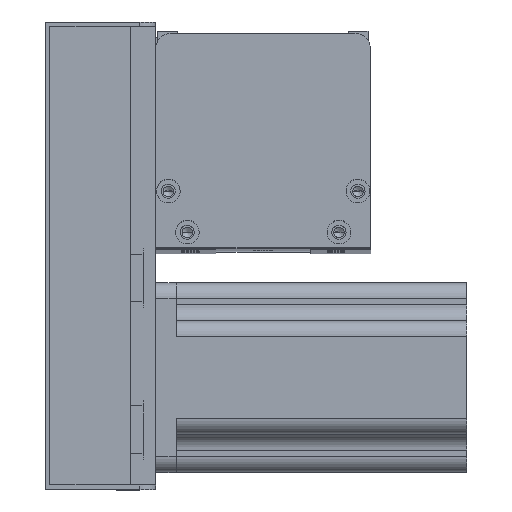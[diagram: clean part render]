
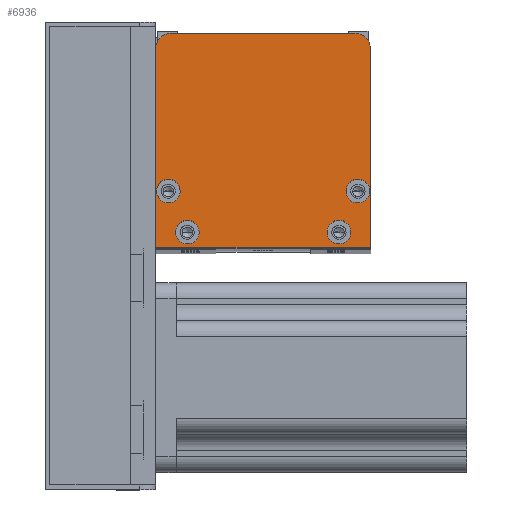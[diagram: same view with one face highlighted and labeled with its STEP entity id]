
A CAD part, top view. The second image highlights one B-rep face of the part: STEP entity #6936.
In plain terms, the highlighted planar face has unit normal (0, 0, 1) as drawn and (0, 0, -1) by its records, which use the part's own axes.
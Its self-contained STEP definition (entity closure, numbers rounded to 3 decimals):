
#126 = CARTESIAN_POINT ( 'NONE',  ( 68., 0., 0. ) ) ;
#302 = DIRECTION ( 'NONE',  ( 0., 0., 1. ) ) ;
#391 = CARTESIAN_POINT ( 'NONE',  ( 68., 0., 0. ) ) ;
#395 = VERTEX_POINT ( 'NONE', #4404 ) ;
#454 = DIRECTION ( 'NONE',  ( 0., 0., -1. ) ) ;
#718 = VERTEX_POINT ( 'NONE', #3376 ) ;
#1198 = ORIENTED_EDGE ( 'NONE', *, *, #7739, .F. ) ;
#2055 = VECTOR ( 'NONE', #8915, 1000. ) ;
#2412 = DIRECTION ( 'NONE',  ( 0., 0., -1. ) ) ;
#2691 = DIRECTION ( 'NONE',  ( -1., 0., 0. ) ) ;
#2917 = ORIENTED_EDGE ( 'NONE', *, *, #13843, .T. ) ;
#3149 = CARTESIAN_POINT ( 'NONE',  ( 0., 0., 0. ) ) ;
#3376 = CARTESIAN_POINT ( 'NONE',  ( 0., 63., 0. ) ) ;
#3703 = CARTESIAN_POINT ( 'NONE',  ( 68., 68., 0. ) ) ;
#4128 = FACE_BOUND ( 'NONE', #23561, .T. ) ;
#4137 = ORIENTED_EDGE ( 'NONE', *, *, #4379, .F. ) ;
#4379 = EDGE_CURVE ( 'NONE', #28611, #11927, #7349, .T. ) ;
#4404 = CARTESIAN_POINT ( 'NONE',  ( 5., 68., 0. ) ) ;
#4482 = CARTESIAN_POINT ( 'NONE',  ( 58., 5., 0. ) ) ;
#4788 = CIRCLE ( 'NONE', #6461, 5. ) ;
#4826 = LINE ( 'NONE', #24292, #2055 ) ;
#4935 = AXIS2_PLACEMENT_3D ( 'NONE', #11714, #16174, #4995 ) ;
#4986 = ORIENTED_EDGE ( 'NONE', *, *, #8062, .F. ) ;
#4995 = DIRECTION ( 'NONE',  ( 1., 0., 0. ) ) ;
#5042 = CARTESIAN_POINT ( 'NONE',  ( 7.75, 18., 0. ) ) ;
#5139 = DIRECTION ( 'NONE',  ( 1., 0., 0. ) ) ;
#5328 = DIRECTION ( 'NONE',  ( 1., 0., 0. ) ) ;
#5510 = CARTESIAN_POINT ( 'NONE',  ( 5., 63., 0. ) ) ;
#5679 = CIRCLE ( 'NONE', #11761, 3.75 ) ;
#5854 = CARTESIAN_POINT ( 'NONE',  ( 68., 0., 0. ) ) ;
#5926 = VERTEX_POINT ( 'NONE', #17543 ) ;
#6381 = LINE ( 'NONE', #3703, #25386 ) ;
#6383 = ORIENTED_EDGE ( 'NONE', *, *, #7032, .T. ) ;
#6461 = AXIS2_PLACEMENT_3D ( 'NONE', #5510, #21096, #5328 ) ;
#6565 = CARTESIAN_POINT ( 'NONE',  ( 6.25, 5., 0. ) ) ;
#6840 = AXIS2_PLACEMENT_3D ( 'NONE', #25421, #12130, #14672 ) ;
#6936 = ADVANCED_FACE ( 'NONE', ( #18646, #7567, #4128, #17581, #21080 ), #13628, .F. ) ;
#7032 = EDGE_CURVE ( 'NONE', #718, #395, #4788, .T. ) ;
#7349 = CIRCLE ( 'NONE', #11383, 3.75 ) ;
#7567 = FACE_BOUND ( 'NONE', #9698, .T. ) ;
#7681 = DIRECTION ( 'NONE',  ( -1., 0., 0. ) ) ;
#7739 = EDGE_CURVE ( 'NONE', #28514, #12484, #26555, .T. ) ;
#7816 = DIRECTION ( 'NONE',  ( -1., 0., 0. ) ) ;
#8016 = AXIS2_PLACEMENT_3D ( 'NONE', #20263, #454, #2691 ) ;
#8062 = EDGE_CURVE ( 'NONE', #17948, #12185, #13739, .T. ) ;
#8121 = DIRECTION ( 'NONE',  ( -1., 0., 0. ) ) ;
#8153 = CIRCLE ( 'NONE', #4935, 5. ) ;
#8282 = LINE ( 'NONE', #126, #19360 ) ;
#8909 = DIRECTION ( 'NONE',  ( 1., 0., 0. ) ) ;
#8915 = DIRECTION ( 'NONE',  ( 0., -1., 0. ) ) ;
#9599 = ORIENTED_EDGE ( 'NONE', *, *, #22439, .F. ) ;
#9698 = EDGE_LOOP ( 'NONE', ( #16908, #27533 ) ) ;
#9999 = DIRECTION ( 'NONE',  ( 0., 0., -1. ) ) ;
#10339 = AXIS2_PLACEMENT_3D ( 'NONE', #14470, #9999, #7681 ) ;
#10620 = EDGE_CURVE ( 'NONE', #12484, #28514, #20095, .T. ) ;
#10829 = CIRCLE ( 'NONE', #27922, 3.75 ) ;
#11383 = AXIS2_PLACEMENT_3D ( 'NONE', #14882, #2412, #17857 ) ;
#11455 = EDGE_CURVE ( 'NONE', #19913, #19158, #8282, .T. ) ;
#11714 = CARTESIAN_POINT ( 'NONE',  ( 63., 63., 0. ) ) ;
#11761 = AXIS2_PLACEMENT_3D ( 'NONE', #4482, #15656, #15562 ) ;
#11927 = VERTEX_POINT ( 'NONE', #25727 ) ;
#12130 = DIRECTION ( 'NONE',  ( 0., 0., -1. ) ) ;
#12185 = VERTEX_POINT ( 'NONE', #26394 ) ;
#12484 = VERTEX_POINT ( 'NONE', #21879 ) ;
#12985 = CARTESIAN_POINT ( 'NONE',  ( 68., 63., 0. ) ) ;
#13628 = PLANE ( 'NONE',  #22369 ) ;
#13731 = DIRECTION ( 'NONE',  ( 0., 1., 0. ) ) ;
#13739 = CIRCLE ( 'NONE', #25408, 3.75 ) ;
#13843 = EDGE_CURVE ( 'NONE', #16825, #25998, #8153, .T. ) ;
#14470 = CARTESIAN_POINT ( 'NONE',  ( 64., 18., 0. ) ) ;
#14672 = DIRECTION ( 'NONE',  ( -1., 0., 0. ) ) ;
#14882 = CARTESIAN_POINT ( 'NONE',  ( 10., 5., 0. ) ) ;
#14891 = DIRECTION ( 'NONE',  ( -1., 0., 0. ) ) ;
#14906 = EDGE_CURVE ( 'NONE', #12185, #17948, #5679, .T. ) ;
#15126 = EDGE_CURVE ( 'NONE', #16825, #395, #6381, .T. ) ;
#15205 = EDGE_CURVE ( 'NONE', #5926, #24621, #10829, .T. ) ;
#15311 = DIRECTION ( 'NONE',  ( -1., 0., 0. ) ) ;
#15562 = DIRECTION ( 'NONE',  ( -1., 0., 0. ) ) ;
#15656 = DIRECTION ( 'NONE',  ( 0., 0., -1. ) ) ;
#15712 = ORIENTED_EDGE ( 'NONE', *, *, #11455, .F. ) ;
#16174 = DIRECTION ( 'NONE',  ( 0., 0., -1. ) ) ;
#16356 = ORIENTED_EDGE ( 'NONE', *, *, #18756, .F. ) ;
#16461 = ORIENTED_EDGE ( 'NONE', *, *, #14906, .F. ) ;
#16825 = VERTEX_POINT ( 'NONE', #28318 ) ;
#16875 = ORIENTED_EDGE ( 'NONE', *, *, #21417, .F. ) ;
#16907 = EDGE_LOOP ( 'NONE', ( #22268, #1198 ) ) ;
#16908 = ORIENTED_EDGE ( 'NONE', *, *, #15205, .F. ) ;
#16912 = CARTESIAN_POINT ( 'NONE',  ( 67.75, 18., 0. ) ) ;
#17106 = DIRECTION ( 'NONE',  ( 0., 0., -1. ) ) ;
#17543 = CARTESIAN_POINT ( 'NONE',  ( 0.25, 18., 0. ) ) ;
#17581 = FACE_BOUND ( 'NONE', #27497, .T. ) ;
#17857 = DIRECTION ( 'NONE',  ( -1., 0., 0. ) ) ;
#17948 = VERTEX_POINT ( 'NONE', #24325 ) ;
#18302 = VECTOR ( 'NONE', #13731, 1000. ) ;
#18646 = FACE_BOUND ( 'NONE', #16907, .T. ) ;
#18756 = EDGE_CURVE ( 'NONE', #11927, #28611, #22283, .T. ) ;
#19061 = AXIS2_PLACEMENT_3D ( 'NONE', #24395, #22085, #15311 ) ;
#19119 = CIRCLE ( 'NONE', #19061, 3.75 ) ;
#19158 = VERTEX_POINT ( 'NONE', #5854 ) ;
#19360 = VECTOR ( 'NONE', #8909, 1000. ) ;
#19432 = EDGE_CURVE ( 'NONE', #24621, #5926, #19119, .T. ) ;
#19913 = VERTEX_POINT ( 'NONE', #3149 ) ;
#20095 = CIRCLE ( 'NONE', #8016, 3.75 ) ;
#20208 = CARTESIAN_POINT ( 'NONE',  ( 0., 0., 0. ) ) ;
#20263 = CARTESIAN_POINT ( 'NONE',  ( 64., 18., 0. ) ) ;
#21080 = FACE_OUTER_BOUND ( 'NONE', #21695, .T. ) ;
#21090 = CARTESIAN_POINT ( 'NONE',  ( 58., 5., 0. ) ) ;
#21096 = DIRECTION ( 'NONE',  ( 0., 0., -1. ) ) ;
#21417 = EDGE_CURVE ( 'NONE', #19158, #25998, #26614, .T. ) ;
#21695 = EDGE_LOOP ( 'NONE', ( #9599, #6383, #27448, #2917, #16875, #15712 ) ) ;
#21879 = CARTESIAN_POINT ( 'NONE',  ( 60.25, 18., 0. ) ) ;
#22085 = DIRECTION ( 'NONE',  ( 0., 0., -1. ) ) ;
#22268 = ORIENTED_EDGE ( 'NONE', *, *, #10620, .F. ) ;
#22283 = CIRCLE ( 'NONE', #6840, 3.75 ) ;
#22369 = AXIS2_PLACEMENT_3D ( 'NONE', #20208, #302, #5139 ) ;
#22439 = EDGE_CURVE ( 'NONE', #718, #19913, #4826, .T. ) ;
#23287 = DIRECTION ( 'NONE',  ( 0., 0., -1. ) ) ;
#23561 = EDGE_LOOP ( 'NONE', ( #4137, #16356 ) ) ;
#24292 = CARTESIAN_POINT ( 'NONE',  ( 0., 0., 0. ) ) ;
#24325 = CARTESIAN_POINT ( 'NONE',  ( 61.75, 5., 0. ) ) ;
#24395 = CARTESIAN_POINT ( 'NONE',  ( 4., 18., 0. ) ) ;
#24621 = VERTEX_POINT ( 'NONE', #5042 ) ;
#25386 = VECTOR ( 'NONE', #14891, 1000. ) ;
#25408 = AXIS2_PLACEMENT_3D ( 'NONE', #21090, #23287, #7816 ) ;
#25421 = CARTESIAN_POINT ( 'NONE',  ( 10., 5., 0. ) ) ;
#25727 = CARTESIAN_POINT ( 'NONE',  ( 13.75, 5., 0. ) ) ;
#25730 = CARTESIAN_POINT ( 'NONE',  ( 4., 18., 0. ) ) ;
#25998 = VERTEX_POINT ( 'NONE', #12985 ) ;
#26394 = CARTESIAN_POINT ( 'NONE',  ( 54.25, 5., 0. ) ) ;
#26555 = CIRCLE ( 'NONE', #10339, 3.75 ) ;
#26614 = LINE ( 'NONE', #391, #18302 ) ;
#27448 = ORIENTED_EDGE ( 'NONE', *, *, #15126, .F. ) ;
#27497 = EDGE_LOOP ( 'NONE', ( #16461, #4986 ) ) ;
#27533 = ORIENTED_EDGE ( 'NONE', *, *, #19432, .F. ) ;
#27922 = AXIS2_PLACEMENT_3D ( 'NONE', #25730, #17106, #8121 ) ;
#28318 = CARTESIAN_POINT ( 'NONE',  ( 63., 68., 0. ) ) ;
#28514 = VERTEX_POINT ( 'NONE', #16912 ) ;
#28611 = VERTEX_POINT ( 'NONE', #6565 ) ;
